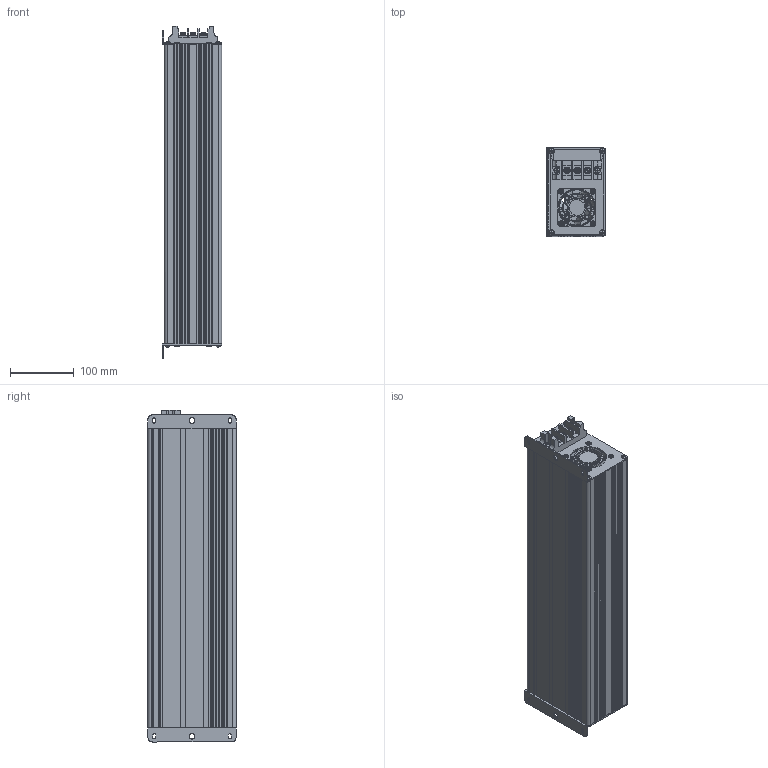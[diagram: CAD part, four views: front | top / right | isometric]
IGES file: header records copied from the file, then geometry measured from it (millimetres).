
Global section: file name: CH470; native system: Autodesk Inventor 2021; preprocessor: unknown; author: eunsol jang; date: 20240605.163115; units: inch
Bounding box: 93 x 139 x 521.5 mm (x, y, z)
Volume: 733743 mm3; surface area: 581828.3 mm2
Topology: 1 solids, 1 shells, 1686 faces, 4664 edges, 3012 vertices
Faces by surface type: bspline 1686
